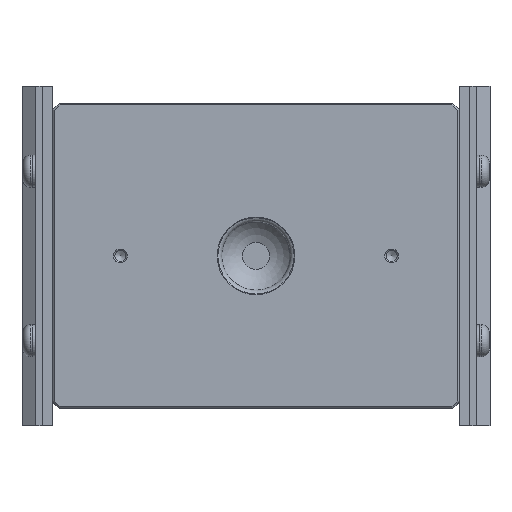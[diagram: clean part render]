
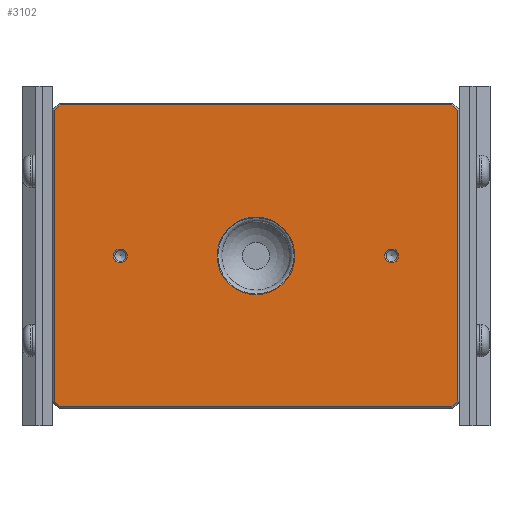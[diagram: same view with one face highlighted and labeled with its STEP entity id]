
A CAD part, top view. The second image highlights one B-rep face of the part: STEP entity #3102.
In plain terms, the highlighted planar face has unit normal (0, 0, 1).
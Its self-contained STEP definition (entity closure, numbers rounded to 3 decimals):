
#147=FACE_BOUND('',#539,.T.);
#148=FACE_BOUND('',#540,.T.);
#149=FACE_BOUND('',#541,.T.);
#194=CIRCLE('',#3336,11.45);
#197=CIRCLE('',#3340,2.);
#198=CIRCLE('',#3341,2.);
#336=FACE_OUTER_BOUND('',#538,.T.);
#538=EDGE_LOOP('',(#1985,#1986,#1987,#1988,#1989,#1990,#1991,#1992));
#539=EDGE_LOOP('',(#1993));
#540=EDGE_LOOP('',(#1994));
#541=EDGE_LOOP('',(#1995));
#789=LINE('',#4644,#1035);
#790=LINE('',#4646,#1036);
#791=LINE('',#4648,#1037);
#792=LINE('',#4650,#1038);
#793=LINE('',#4652,#1039);
#794=LINE('',#4654,#1040);
#795=LINE('',#4656,#1041);
#796=LINE('',#4657,#1042);
#1035=VECTOR('',#3713,10.);
#1036=VECTOR('',#3714,10.);
#1037=VECTOR('',#3715,10.);
#1038=VECTOR('',#3716,10.);
#1039=VECTOR('',#3717,10.);
#1040=VECTOR('',#3718,10.);
#1041=VECTOR('',#3719,10.);
#1042=VECTOR('',#3720,10.);
#1281=VERTEX_POINT('',#4634);
#1284=VERTEX_POINT('',#4642);
#1285=VERTEX_POINT('',#4643);
#1286=VERTEX_POINT('',#4645);
#1287=VERTEX_POINT('',#4647);
#1288=VERTEX_POINT('',#4649);
#1289=VERTEX_POINT('',#4651);
#1290=VERTEX_POINT('',#4653);
#1291=VERTEX_POINT('',#4655);
#1292=VERTEX_POINT('',#4658);
#1293=VERTEX_POINT('',#4660);
#1558=EDGE_CURVE('',#1281,#1281,#194,.T.);
#1562=EDGE_CURVE('',#1284,#1285,#789,.T.);
#1563=EDGE_CURVE('',#1286,#1284,#790,.T.);
#1564=EDGE_CURVE('',#1287,#1286,#791,.T.);
#1565=EDGE_CURVE('',#1288,#1287,#792,.T.);
#1566=EDGE_CURVE('',#1289,#1288,#793,.T.);
#1567=EDGE_CURVE('',#1290,#1289,#794,.T.);
#1568=EDGE_CURVE('',#1291,#1290,#795,.T.);
#1569=EDGE_CURVE('',#1285,#1291,#796,.T.);
#1570=EDGE_CURVE('',#1292,#1292,#197,.T.);
#1571=EDGE_CURVE('',#1293,#1293,#198,.T.);
#1985=ORIENTED_EDGE('',*,*,#1562,.F.);
#1986=ORIENTED_EDGE('',*,*,#1563,.F.);
#1987=ORIENTED_EDGE('',*,*,#1564,.F.);
#1988=ORIENTED_EDGE('',*,*,#1565,.F.);
#1989=ORIENTED_EDGE('',*,*,#1566,.F.);
#1990=ORIENTED_EDGE('',*,*,#1567,.F.);
#1991=ORIENTED_EDGE('',*,*,#1568,.F.);
#1992=ORIENTED_EDGE('',*,*,#1569,.F.);
#1993=ORIENTED_EDGE('',*,*,#1570,.T.);
#1994=ORIENTED_EDGE('',*,*,#1571,.T.);
#1995=ORIENTED_EDGE('',*,*,#1558,.F.);
#2786=PLANE('',#3339);
#3102=ADVANCED_FACE('',(#336,#147,#148,#149),#2786,.T.);
#3336=AXIS2_PLACEMENT_3D('',#4635,#3704,#3705);
#3339=AXIS2_PLACEMENT_3D('',#4641,#3711,#3712);
#3340=AXIS2_PLACEMENT_3D('',#4659,#3721,#3722);
#3341=AXIS2_PLACEMENT_3D('',#4661,#3723,#3724);
#3704=DIRECTION('center_axis',(0.,0.,1.));
#3705=DIRECTION('ref_axis',(0.,-1.,0.));
#3711=DIRECTION('center_axis',(0.,0.,1.));
#3712=DIRECTION('ref_axis',(1.,0.,0.));
#3713=DIRECTION('',(-1.,0.,0.));
#3714=DIRECTION('',(-0.707,-0.707,0.));
#3715=DIRECTION('',(0.,-1.,0.));
#3716=DIRECTION('',(0.707,-0.707,0.));
#3717=DIRECTION('',(1.,0.,0.));
#3718=DIRECTION('',(0.707,0.707,0.));
#3719=DIRECTION('',(0.,1.,0.));
#3720=DIRECTION('',(-0.707,0.707,0.));
#3721=DIRECTION('center_axis',(0.,0.,-1.));
#3722=DIRECTION('ref_axis',(1.,0.,0.));
#3723=DIRECTION('center_axis',(0.,0.,-1.));
#3724=DIRECTION('ref_axis',(1.,0.,0.));
#4634=CARTESIAN_POINT('',(0.,11.45,33.));
#4635=CARTESIAN_POINT('Origin',(0.,0.,33.));
#4641=CARTESIAN_POINT('Origin',(0.,0.,
33.));
#4642=CARTESIAN_POINT('',(57.793,-44.5,33.));
#4643=CARTESIAN_POINT('',(-57.793,-44.5,33.));
#4644=CARTESIAN_POINT('',(30.,-44.5,33.));
#4645=CARTESIAN_POINT('',(59.5,-42.793,33.));
#4646=CARTESIAN_POINT('',(54.896,-47.396,33.));
#4647=CARTESIAN_POINT('',(59.5,42.793,33.));
#4648=CARTESIAN_POINT('',(59.5,22.5,33.));
#4649=CARTESIAN_POINT('',(57.793,44.5,33.));
#4650=CARTESIAN_POINT('',(54.896,47.396,33.));
#4651=CARTESIAN_POINT('',(-57.793,44.5,33.));
#4652=CARTESIAN_POINT('',(-30.,44.5,33.));
#4653=CARTESIAN_POINT('',(-59.5,42.793,33.));
#4654=CARTESIAN_POINT('',(-54.896,47.396,33.));
#4655=CARTESIAN_POINT('',(-59.5,-42.793,33.));
#4656=CARTESIAN_POINT('',(-59.5,-22.5,33.));
#4657=CARTESIAN_POINT('',(-54.896,-47.396,33.));
#4658=CARTESIAN_POINT('',(38.,0.,33.));
#4659=CARTESIAN_POINT('Origin',(40.,0.,33.));
#4660=CARTESIAN_POINT('',(-42.,0.,33.));
#4661=CARTESIAN_POINT('Origin',(-40.,0.,33.));
